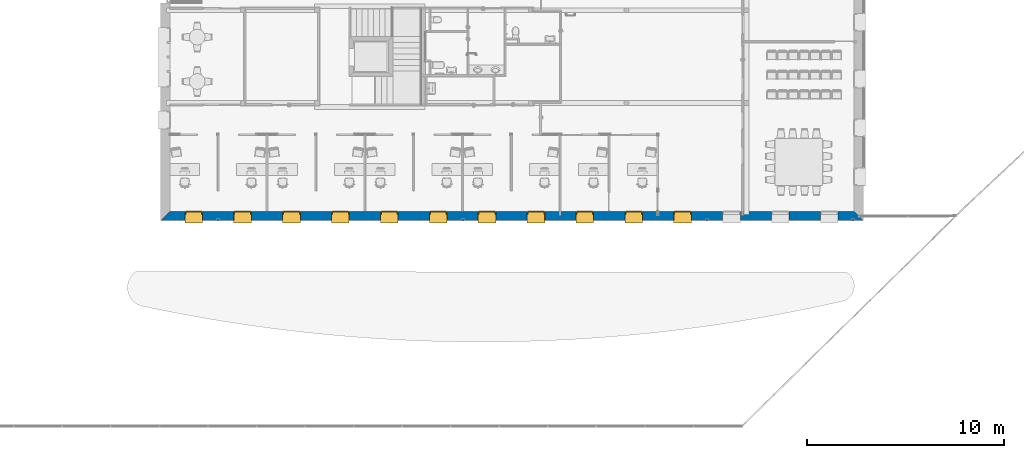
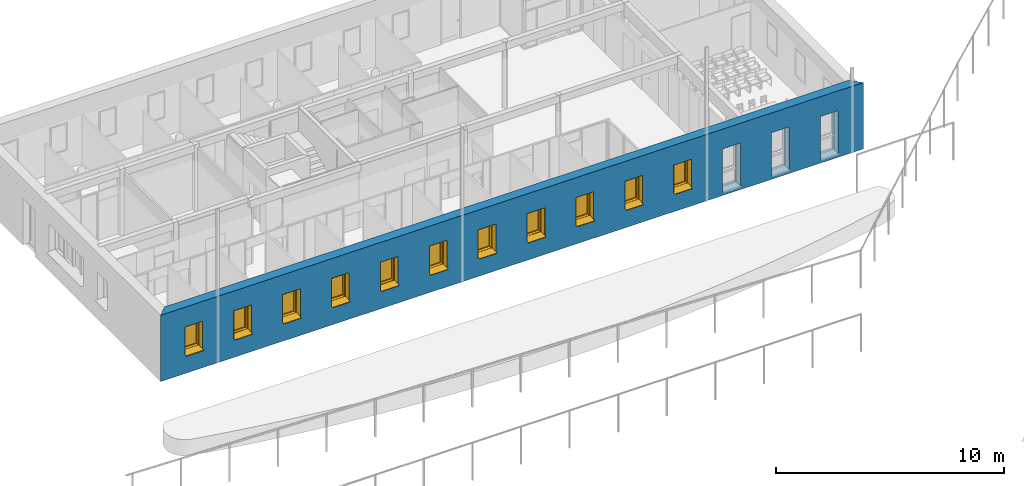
# One storey, part 16 of 91: 11 windows, 1 wall, 14 openings.
"""IFC2X3 building model written with IfcOpenShell, lengths in metres."""

from ifc_helpers import new_model, entity, si_unit, converted_unit, derived_unit, money_unit, direction, frame, origin_with_axes, origin_2d_with_axis, place, context, subcontext, project, spatial, polyline, rectangle, outline, extrude, open_shell, faceted_brep, surface_model, source, transform, mapped, material, layer, layer_set, layer_usage, type_object, element, fill, save


model = new_model("IFC2X3")

# Units and contexts
model_context = context("Model", 3, precision=1e-05, world=origin_with_axes(), true_north=direction((0.0, 1.0)))
body_context = subcontext(model_context, "Body", "Model", "MODEL_VIEW")
ifc_project = project(units=[si_unit("LENGTHUNIT", "METRE"), si_unit("AREAUNIT", "SQUARE_METRE"), si_unit("VOLUMEUNIT", "CUBIC_METRE"), converted_unit("PLANEANGLEUNIT", "DEGREE", entity("IfcPlaneAngleMeasure", 0.0174532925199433), si_unit("PLANEANGLEUNIT", "RADIAN"), dimensions=[0, 0, 0, 0, 0, 0, 0]), money_unit("EUR"), converted_unit("TIMEUNIT", "Year", entity("IfcTimeMeasure", 31557600.0), si_unit("TIMEUNIT", "SECOND"), dimensions=[0, 0, 1, 0, 0, 0, 0]), si_unit("MASSUNIT", "GRAM", prefix="KILO"), si_unit("THERMODYNAMICTEMPERATUREUNIT", "DEGREE_CELSIUS"), si_unit("LUMINOUSINTENSITYUNIT", "LUMEN"), si_unit("ENERGYUNIT", "JOULE", prefix="MEGA"), derived_unit("THERMALCONDUCTANCEUNIT", [(si_unit("POWERUNIT", "WATT"), 1), (si_unit("LENGTHUNIT", "METRE"), -1), (si_unit("THERMODYNAMICTEMPERATUREUNIT", "KELVIN"), -1)]), derived_unit("SPECIFICHEATCAPACITYUNIT", [(si_unit("ENERGYUNIT", "JOULE"), 1), (si_unit("MASSUNIT", "GRAM", prefix="KILO"), -1), (si_unit("THERMODYNAMICTEMPERATUREUNIT", "KELVIN"), -1)]), derived_unit("MASSDENSITYUNIT", [(si_unit("MASSUNIT", "GRAM", prefix="KILO"), 1), (si_unit("VOLUMEUNIT", "CUBIC_METRE"), -1)])], contexts=[model_context])

# Site, building, storey
site_placement = place(None, origin_with_axes())
site = spatial("IfcSite", under=ifc_project, at=site_placement, Name="Site", CompositionType="ELEMENT")
building_placement = place(site_placement, origin_with_axes())
building = spatial("IfcBuilding", under=site, at=building_placement, Name="Bâtiment", CompositionType="ELEMENT")
storey_placement = place(building_placement, origin_with_axes())
storey = spatial("IfcBuildingStorey", under=building, at=storey_placement, Name="RDC", CompositionType="ELEMENT", Elevation=0.0)

# Wall, openings, windows
ifc_material_1 = material(Name="*MÉTAL- BARDAGE")
ifc_layer_1 = layer(ifc_material_1, 0.04, ventilated="UNKNOWN")
ifc_material_2 = material(Name="Divers - Vide faux plafond")
ifc_layer_2 = layer(ifc_material_2, 0.05, ventilated="UNKNOWN")
ifc_material_3 = material(Name="Finition int - Enduit plâtre")
ifc_layer_3 = layer(ifc_material_3, 0.01, ventilated="UNKNOWN")
ifc_material_4 = material(Name="*GENERIQUE - MAÇONNERIE")
ifc_layer_4 = layer(ifc_material_4, 0.2, ventilated="UNKNOWN")
ifc_layer_5 = layer(ifc_material_3, 0.01, ventilated="UNKNOWN")
ifc_material_5 = material(Name="Vide pour liteaux")
ifc_layer_6 = layer(ifc_material_5, 0.01, ventilated="UNKNOWN")
ifc_material_6 = material(Name="*GENERIQUE - ISOLATION PLANCHER")
ifc_layer_7 = layer(ifc_material_6, 0.14, ventilated="UNKNOWN")
ifc_material_7 = material(Name="*PLAQUE DE PLATRE - DOUBLAGE")
ifc_layer_8 = layer(ifc_material_7, 0.018, ventilated="UNKNOWN")
ifc_layer_set = layer_set([ifc_layer_1, ifc_layer_2, ifc_layer_3, ifc_layer_4, ifc_layer_5, ifc_layer_6, ifc_layer_7, ifc_layer_8], Name="*MACONNERIE ITI BARDAGE METAL")
ifc_layer_usage = layer_usage(ifc_layer_set, "AXIS2", "POSITIVE", -0.478)
wall_type = type_object("IfcWallType", Name="*MACONNERIE ITI BARDAGE METAL 478", PredefinedType="NOTDEFINED")
wall_placement = place(storey_placement, frame((25.09999999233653, -26.95756215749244, 0.0), z_axis=(0.0, 0.0, 1.0), x_axis=(1.0, 0.0, 0.0)))
wall = element("IfcWallStandardCase", 1, at=wall_placement, inside=storey, type_object=wall_type, material=ifc_layer_usage, Name="Mur maçonné + ITI + véture métallique", context=body_context, shape_type="SweptSolid", body=[
    extrude(outline(polyline([(-0.4780000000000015, -0.4780000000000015), (35.17800000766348, -0.4780000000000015), (34.70000000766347, 0.0), (0.0, 0.0), (-0.4780000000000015, -0.4780000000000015)])), origin_with_axes(), (0.0, 0.0, 1.0), 3.56),
])
opening_1_placement = place(wall_placement, frame((1.202999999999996, 0.0, 1.0), z_axis=(0.0, 0.0, 1.0), x_axis=(1.0, 0.0, 0.0)))
opening_1 = element("IfcOpeningElement", 2, at=opening_1_placement, cuts=wall, Name="ME.01", context=body_context, shape_type="SweptSolid", body=[
    extrude(rectangle(XDim=0.8999999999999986, YDim=1.5, at=origin_2d_with_axis()), frame((0.0, -0.1580000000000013, 0.75), z_axis=(0.0, -1.0, 0.0), x_axis=(-1.0, 0.0, 0.0)), (0.0, 0.0, 1.0), 0.798),
    extrude(rectangle(XDim=0.8999999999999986, YDim=1.5, at=origin_2d_with_axis()), frame((0.0, -0.1580000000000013, 0.75), z_axis=(0.0, 1.0, 0.0), x_axis=(-1.0, 0.0, 0.0)), (0.0, 0.0, 1.0), 0.6360000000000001),
])
opening_2_placement = place(wall_placement, frame((6.162999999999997, 0.0, 1.0), z_axis=(0.0, 0.0, 1.0), x_axis=(1.0, 0.0, 0.0)))
opening_2 = element("IfcOpeningElement", 3, at=opening_2_placement, cuts=wall, Name="ME.01", context=body_context, shape_type="SweptSolid", body=[
    extrude(rectangle(XDim=0.8999999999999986, YDim=1.5, at=origin_2d_with_axis()), frame((0.0, -0.1580000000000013, 0.75), z_axis=(0.0, -1.0, 0.0), x_axis=(-1.0, 0.0, 0.0)), (0.0, 0.0, 1.0), 0.798),
    extrude(rectangle(XDim=0.8999999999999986, YDim=1.5, at=origin_2d_with_axis()), frame((0.0, -0.1580000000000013, 0.75), z_axis=(0.0, 1.0, 0.0), x_axis=(-1.0, 0.0, 0.0)), (0.0, 0.0, 1.0), 0.6360000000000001),
])
opening_3_placement = place(wall_placement, frame((8.642999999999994, 0.0, 1.0), z_axis=(0.0, 0.0, 1.0), x_axis=(1.0, 0.0, 0.0)))
opening_3 = element("IfcOpeningElement", 4, at=opening_3_placement, cuts=wall, Name="ME.01", context=body_context, shape_type="SweptSolid", body=[
    extrude(rectangle(XDim=0.9000000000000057, YDim=1.5, at=origin_2d_with_axis()), frame((0.0, -0.1580000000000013, 0.75), z_axis=(0.0, -1.0, 0.0), x_axis=(-1.0, 0.0, 0.0)), (0.0, 0.0, 1.0), 0.798),
    extrude(rectangle(XDim=0.9000000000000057, YDim=1.5, at=origin_2d_with_axis()), frame((0.0, -0.1580000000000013, 0.75), z_axis=(0.0, 1.0, 0.0), x_axis=(-1.0, 0.0, 0.0)), (0.0, 0.0, 1.0), 0.6360000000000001),
])
opening_4_placement = place(wall_placement, frame((11.123, 0.0, 1.0), z_axis=(0.0, 0.0, 1.0), x_axis=(1.0, 0.0, 0.0)))
opening_4 = element("IfcOpeningElement", 5, at=opening_4_placement, cuts=wall, Name="ME.01", context=body_context, shape_type="SweptSolid", body=[
    extrude(rectangle(XDim=0.9000000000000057, YDim=1.5, at=origin_2d_with_axis()), frame((0.0, -0.1580000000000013, 0.75), z_axis=(0.0, -1.0, 0.0), x_axis=(-1.0, 0.0, 0.0)), (0.0, 0.0, 1.0), 0.798),
    extrude(rectangle(XDim=0.9000000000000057, YDim=1.5, at=origin_2d_with_axis()), frame((0.0, -0.1580000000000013, 0.75), z_axis=(0.0, 1.0, 0.0), x_axis=(-1.0, 0.0, 0.0)), (0.0, 0.0, 1.0), 0.6360000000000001),
])
opening_5_placement = place(wall_placement, frame((13.60299999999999, 0.0, 1.0), z_axis=(0.0, 0.0, 1.0), x_axis=(1.0, 0.0, 0.0)))
opening_5 = element("IfcOpeningElement", 6, at=opening_5_placement, cuts=wall, Name="ME.01", context=body_context, shape_type="SweptSolid", body=[
    extrude(rectangle(XDim=0.9000000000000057, YDim=1.5, at=origin_2d_with_axis()), frame((0.0, -0.1580000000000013, 0.75), z_axis=(0.0, -1.0, 0.0), x_axis=(-1.0, 0.0, 0.0)), (0.0, 0.0, 1.0), 0.798),
    extrude(rectangle(XDim=0.9000000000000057, YDim=1.5, at=origin_2d_with_axis()), frame((0.0, -0.1580000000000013, 0.75), z_axis=(0.0, 1.0, 0.0), x_axis=(-1.0, 0.0, 0.0)), (0.0, 0.0, 1.0), 0.6360000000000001),
])
opening_6_placement = place(wall_placement, frame((16.08299999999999, 0.0, 1.0), z_axis=(0.0, 0.0, 1.0), x_axis=(1.0, 0.0, 0.0)))
opening_6 = element("IfcOpeningElement", 7, at=opening_6_placement, cuts=wall, Name="ME.01", context=body_context, shape_type="SweptSolid", body=[
    extrude(rectangle(XDim=0.9000000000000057, YDim=1.5, at=origin_2d_with_axis()), frame((0.0, -0.1580000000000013, 0.75), z_axis=(0.0, -1.0, 0.0), x_axis=(-1.0, 0.0, 0.0)), (0.0, 0.0, 1.0), 0.798),
    extrude(rectangle(XDim=0.9000000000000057, YDim=1.5, at=origin_2d_with_axis()), frame((0.0, -0.1580000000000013, 0.75), z_axis=(0.0, 1.0, 0.0), x_axis=(-1.0, 0.0, 0.0)), (0.0, 0.0, 1.0), 0.6360000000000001),
])
opening_7_placement = place(wall_placement, frame((18.563, 0.0, 1.0), z_axis=(0.0, 0.0, 1.0), x_axis=(1.0, 0.0, 0.0)))
opening_7 = element("IfcOpeningElement", 8, at=opening_7_placement, cuts=wall, Name="ME.01", context=body_context, shape_type="SweptSolid", body=[
    extrude(rectangle(XDim=0.9000000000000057, YDim=1.5, at=origin_2d_with_axis()), frame((0.0, -0.1580000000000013, 0.75), z_axis=(0.0, -1.0, 0.0), x_axis=(-1.0, 0.0, 0.0)), (0.0, 0.0, 1.0), 0.798),
    extrude(rectangle(XDim=0.9000000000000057, YDim=1.5, at=origin_2d_with_axis()), frame((0.0, -0.1580000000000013, 0.75), z_axis=(0.0, 1.0, 0.0), x_axis=(-1.0, 0.0, 0.0)), (0.0, 0.0, 1.0), 0.6360000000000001),
])
opening_8_placement = place(wall_placement, frame((21.043, 0.0, 1.0), z_axis=(0.0, 0.0, 1.0), x_axis=(1.0, 0.0, 0.0)))
opening_8 = element("IfcOpeningElement", 9, at=opening_8_placement, cuts=wall, Name="ME.01", context=body_context, shape_type="SweptSolid", body=[
    extrude(rectangle(XDim=0.9000000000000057, YDim=1.5, at=origin_2d_with_axis()), frame((0.0, -0.1580000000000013, 0.75), z_axis=(0.0, -1.0, 0.0), x_axis=(-1.0, 0.0, 0.0)), (0.0, 0.0, 1.0), 0.798),
    extrude(rectangle(XDim=0.9000000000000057, YDim=1.5, at=origin_2d_with_axis()), frame((0.0, -0.1580000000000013, 0.75), z_axis=(0.0, 1.0, 0.0), x_axis=(-1.0, 0.0, 0.0)), (0.0, 0.0, 1.0), 0.6360000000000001),
])
opening_9_placement = place(wall_placement, frame((3.682999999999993, 0.0, 1.0), z_axis=(0.0, 0.0, 1.0), x_axis=(1.0, 0.0, 0.0)))
opening_9 = element("IfcOpeningElement", 10, at=opening_9_placement, cuts=wall, Name="ME.01", context=body_context, shape_type="SweptSolid", body=[
    extrude(rectangle(XDim=0.8999999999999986, YDim=1.5, at=origin_2d_with_axis()), frame((0.0, -0.1580000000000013, 0.75), z_axis=(0.0, -1.0, 0.0), x_axis=(-1.0, 0.0, 0.0)), (0.0, 0.0, 1.0), 0.798),
    extrude(rectangle(XDim=0.8999999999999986, YDim=1.5, at=origin_2d_with_axis()), frame((0.0, -0.1580000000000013, 0.75), z_axis=(0.0, 1.0, 0.0), x_axis=(-1.0, 0.0, 0.0)), (0.0, 0.0, 1.0), 0.6360000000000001),
])
opening_10_placement = place(wall_placement, frame((23.523, 0.0, 1.0), z_axis=(0.0, 0.0, 1.0), x_axis=(1.0, 0.0, 0.0)))
opening_10 = element("IfcOpeningElement", 11, at=opening_10_placement, cuts=wall, Name="ME.01", context=body_context, shape_type="SweptSolid", body=[
    extrude(rectangle(XDim=0.9000000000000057, YDim=1.5, at=origin_2d_with_axis()), frame((0.0, -0.1580000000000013, 0.75), z_axis=(0.0, -1.0, 0.0), x_axis=(-1.0, 0.0, 0.0)), (0.0, 0.0, 1.0), 0.798),
    extrude(rectangle(XDim=0.9000000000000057, YDim=1.5, at=origin_2d_with_axis()), frame((0.0, -0.1580000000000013, 0.75), z_axis=(0.0, 1.0, 0.0), x_axis=(-1.0, 0.0, 0.0)), (0.0, 0.0, 1.0), 0.6360000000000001),
])
opening_11_placement = place(wall_placement, frame((26.00300000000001, 0.0, 1.0), z_axis=(0.0, 0.0, 1.0), x_axis=(1.0, 0.0, 0.0)))
opening_11 = element("IfcOpeningElement", 12, at=opening_11_placement, cuts=wall, Name="ME.01", context=body_context, shape_type="SweptSolid", body=[
    extrude(rectangle(XDim=0.9000000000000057, YDim=1.5, at=origin_2d_with_axis()), frame((0.0, -0.1580000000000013, 0.75), z_axis=(0.0, -1.0, 0.0), x_axis=(-1.0, 0.0, 0.0)), (0.0, 0.0, 1.0), 0.798),
    extrude(rectangle(XDim=0.9000000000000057, YDim=1.5, at=origin_2d_with_axis()), frame((0.0, -0.1580000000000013, 0.75), z_axis=(0.0, 1.0, 0.0), x_axis=(-1.0, 0.0, 0.0)), (0.0, 0.0, 1.0), 0.6360000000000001),
])
opening_12_placement = place(wall_placement, frame((28.48300000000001, 0.0, 0.2), z_axis=(0.0, 0.0, 1.0), x_axis=(1.0, 0.0, 0.0)))
element("IfcOpeningElement", 13, at=opening_12_placement, cuts=wall, Name="ME.02", context=body_context, shape_type="SweptSolid", body=[
    extrude(rectangle(XDim=0.9000000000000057, YDim=2.3, at=origin_2d_with_axis()), frame((0.0, -0.1580000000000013, 1.15), z_axis=(0.0, -1.0, 0.0), x_axis=(-1.0, 0.0, 0.0)), (0.0, 0.0, 1.0), 0.798),
    extrude(rectangle(XDim=0.9000000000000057, YDim=2.3, at=origin_2d_with_axis()), frame((0.0, -0.1580000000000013, 1.15), z_axis=(0.0, 1.0, 0.0), x_axis=(-1.0, 0.0, 0.0)), (0.0, 0.0, 1.0), 0.6360000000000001),
])
opening_13_placement = place(wall_placement, frame((30.96300000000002, 0.0, 0.2), z_axis=(0.0, 0.0, 1.0), x_axis=(1.0, 0.0, 0.0)))
element("IfcOpeningElement", 14, at=opening_13_placement, cuts=wall, Name="ME.02", context=body_context, shape_type="SweptSolid", body=[
    extrude(rectangle(XDim=0.9000000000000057, YDim=2.3, at=origin_2d_with_axis()), frame((0.0, -0.1580000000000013, 1.15), z_axis=(0.0, -1.0, 0.0), x_axis=(-1.0, 0.0, 0.0)), (0.0, 0.0, 1.0), 0.798),
    extrude(rectangle(XDim=0.9000000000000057, YDim=2.3, at=origin_2d_with_axis()), frame((0.0, -0.1580000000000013, 1.15), z_axis=(0.0, 1.0, 0.0), x_axis=(-1.0, 0.0, 0.0)), (0.0, 0.0, 1.0), 0.6360000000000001),
])
opening_14_placement = place(wall_placement, frame((33.44300000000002, 0.0, 0.2), z_axis=(0.0, 0.0, 1.0), x_axis=(1.0, 0.0, 0.0)))
element("IfcOpeningElement", 15, at=opening_14_placement, cuts=wall, Name="ME.02", context=body_context, shape_type="SweptSolid", body=[
    extrude(rectangle(XDim=0.9000000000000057, YDim=2.3, at=origin_2d_with_axis()), frame((0.0, -0.1580000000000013, 1.15), z_axis=(0.0, -1.0, 0.0), x_axis=(-1.0, 0.0, 0.0)), (0.0, 0.0, 1.0), 0.798),
    extrude(rectangle(XDim=0.9000000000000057, YDim=2.3, at=origin_2d_with_axis()), frame((0.0, -0.1580000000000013, 1.15), z_axis=(0.0, 1.0, 0.0), x_axis=(-1.0, 0.0, 0.0)), (0.0, 0.0, 1.0), 0.6360000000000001),
])
window_style = type_object("IfcWindowStyle", Name="Fenêtre 27", ConstructionType="NOTDEFINED", OperationType="SINGLE_PANEL", ParameterTakesPrecedence=False, Sizeable=False)
shared_shape = source(origin_with_axes(), body_context, "Body", "SurfaceModel", [
    surface_model("IfcShellBasedSurfaceModel", [(0.45, -0.161, 0.05), (-0.45, -0.161, 0.05000000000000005), (-0.45, -0.161, 0.04000000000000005), (0.45, -0.161, 0.03999999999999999), (-0.45, -0.5850000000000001, 0.01343749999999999), (0.45, -0.5850000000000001, 0.01343749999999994), (-0.45, -0.5850000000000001, -0.006562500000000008), (0.45, -0.5850000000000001, -0.006562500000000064), (-0.45, -0.5750000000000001, 0.003437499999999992), (0.45, -0.5750000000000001, 0.003437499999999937)], [open_shell([[[0, 1, 2, 3]], [[3, 2, 4, 5]], [[5, 4, 6, 7]], [[7, 6, 8, 9]]])]),
    faceted_brep([(0.447, -0.48, 0.02001547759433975), (0.447, -0.4799999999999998, 1.497), (0.447, -0.1599999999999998, 1.497), (0.447, -0.16, 0.05000000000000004), (0.447, -0.161, 0.05000000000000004), (0.447, -0.161, 0.04000000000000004), (0.45, -0.4799999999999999, 0.02001547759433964), (0.45, -0.4799999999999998, 1.5), (0.45, -0.1599999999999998, 1.5), (0.45, -0.16, 0.05000000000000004), (0.45, -0.161, 0.05000000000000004), (0.45, -0.161, 0.04000000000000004)], [[[0, 1, 2, 3, 4, 5]], [[6, 7, 1, 0]], [[8, 2, 1, 7]], [[3, 2, 8, 9]], [[3, 9, 10, 4]], [[4, 10, 11, 5]], [[5, 11, 6, 0]], [[11, 10, 9, 8, 7, 6]]]),
    faceted_brep([(-0.45, -0.48, 0.02001547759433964), (-0.45, -0.4799999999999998, 1.5), (-0.45, -0.1599999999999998, 1.5), (-0.45, -0.16, 0.05000000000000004), (-0.45, -0.161, 0.05000000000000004), (-0.45, -0.161, 0.04000000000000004), (-0.447, -0.48, 0.02001547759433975), (-0.447, -0.4799999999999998, 1.497), (-0.447, -0.1599999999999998, 1.497), (-0.447, -0.16, 0.05000000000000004), (-0.447, -0.161, 0.05000000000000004), (-0.447, -0.161, 0.04000000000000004)], [[[0, 1, 2, 3, 4, 5]], [[6, 7, 1, 0]], [[8, 2, 1, 7]], [[3, 2, 8, 9]], [[3, 9, 10, 4]], [[4, 10, 11, 5]], [[5, 11, 6, 0]], [[11, 10, 9, 8, 7, 6]]]),
    faceted_brep([(0.45, -0.1599999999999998, 1.5), (0.45, -0.4799999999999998, 1.5), (0.447, -0.4799999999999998, 1.497), (0.447, -0.1599999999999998, 1.497), (-0.45, -0.1599999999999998, 1.5), (-0.45, -0.4799999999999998, 1.5), (-0.447, -0.4799999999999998, 1.497), (-0.447, -0.1599999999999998, 1.497)], [[[0, 1, 2, 3]], [[4, 5, 1, 0]], [[1, 5, 6, 2]], [[3, 2, 6, 7]], [[0, 3, 7, 4]], [[7, 6, 5, 4]]]),
    faceted_brep([(0.425, 0.0, 1.45), (0.425, -0.02500000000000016, 1.45), (0.4, -0.02500000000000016, 1.45), (0.4, -0.1600000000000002, 1.45), (0.45, -0.1600000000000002, 1.45), (0.45, 0.0, 1.45), (0.425, 0.0, 0.05000000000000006), (0.425, -0.02499999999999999, 0.05000000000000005), (0.4, -0.02499999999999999, 0.05000000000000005), (0.4, -0.16, 0.05000000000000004), (0.45, -0.16, 0.05000000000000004), (0.45, 0.0, 0.05000000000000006)], [[[0, 1, 2, 3, 4, 5]], [[1, 0, 6, 7]], [[8, 2, 1, 7]], [[2, 8, 9, 3]], [[4, 3, 9, 10]], [[5, 4, 10, 11]], [[6, 0, 5, 11]], [[7, 6, 11, 10, 9, 8]]]),
    faceted_brep([(-0.4, -0.02500000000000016, 1.45), (-0.425, -0.02500000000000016, 1.45), (-0.425, 0.0, 1.45), (-0.45, 0.0, 1.45), (-0.45, -0.1600000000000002, 1.45), (-0.4, -0.1600000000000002, 1.45), (-0.4, -0.02499999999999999, 0.05000000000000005), (-0.425, -0.02499999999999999, 0.05000000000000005), (-0.425, 0.0, 0.05000000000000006), (-0.45, 0.0, 0.05000000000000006), (-0.45, -0.16, 0.05000000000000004), (-0.4, -0.16, 0.05000000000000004)], [[[0, 1, 2, 3, 4, 5]], [[1, 0, 6, 7]], [[8, 2, 1, 7]], [[2, 8, 9, 3]], [[9, 10, 4, 3]], [[10, 11, 5, 4]], [[6, 0, 5, 11]], [[7, 6, 11, 10, 9, 8]]]),
    faceted_brep([(-0.4, -0.02499999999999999, 0.05000000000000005), (-0.425, -0.02499999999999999, 0.05000000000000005), (-0.425, 0.0, 0.05000000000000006), (-0.45, 0.0, 0.05000000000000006), (-0.45, -0.16, 0.05000000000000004), (-0.4, -0.16, 0.05000000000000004), (0.4, -0.02499999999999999, 0.05000000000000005), (0.425, -0.02499999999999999, 0.05000000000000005), (0.425, -0.02499999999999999, 0.02500000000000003), (-0.425, -0.02499999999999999, 0.02500000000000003), (-0.425, 0.0, 0.02500000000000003), (0.425, 0.0, 0.02500000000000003), (0.425, 0.0, 0.05000000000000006), (0.45, 0.0, 0.05000000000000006), (0.45, 0.0, 0.0), (-0.45, 0.0, 0.0), (-0.45, -0.16, 0.0), (0.45, -0.16, 0.05000000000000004), (0.4, -0.16, 0.05000000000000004), (0.45, -0.16, 0.0)], [[[0, 1, 2, 3, 4, 5]], [[1, 0, 6, 7, 8, 9]], [[10, 2, 1, 9]], [[11, 12, 13, 14, 15, 3, 2, 10]], [[15, 16, 4, 3]], [[17, 18, 5, 4, 16, 19]], [[6, 0, 5, 18]], [[7, 6, 18, 17, 13, 12]], [[7, 12, 11, 8]], [[11, 10, 9, 8]], [[13, 17, 19, 14]], [[14, 19, 16, 15]]]),
    faceted_brep([(0.425, 0.0, 1.45), (0.425, 0.0, 1.475), (-0.425, 0.0, 1.475), (-0.425, 0.0, 1.45), (-0.45, 0.0, 1.45), (-0.45, 0.0, 1.5), (0.45, 0.0, 1.5), (0.45, 0.0, 1.45), (0.425, -0.02500000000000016, 1.45), (0.425, -0.02500000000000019, 1.475), (-0.425, -0.02500000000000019, 1.475), (-0.425, -0.02500000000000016, 1.45), (-0.4, -0.02500000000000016, 1.45), (-0.4, -0.1600000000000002, 1.45), (-0.45, -0.1600000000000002, 1.45), (-0.45, -0.1600000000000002, 1.5), (0.45, -0.1600000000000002, 1.5), (0.45, -0.1600000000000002, 1.45), (0.4, -0.1600000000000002, 1.45), (0.4, -0.02500000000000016, 1.45)], [[[0, 1, 2, 3, 4, 5, 6, 7]], [[1, 0, 8, 9]], [[2, 1, 9, 10]], [[3, 2, 10, 11]], [[11, 12, 13, 14, 4, 3]], [[4, 14, 15, 5]], [[5, 15, 16, 6]], [[6, 16, 17, 7]], [[8, 0, 7, 17, 18, 19]], [[12, 11, 10, 9, 8, 19]], [[12, 19, 18, 13]], [[14, 13, 18, 17, 16, 15]]]),
    faceted_brep([(0.3750000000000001, -0.02500000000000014, 1.425), (0.425, -0.02500000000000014, 1.425), (0.425, 0.02499999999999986, 1.425), (0.3750000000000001, 0.02499999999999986, 1.425), (0.3750000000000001, -0.02499999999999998, 0.07500000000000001), (0.425, -0.02499999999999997, 0.07500000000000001), (0.425, 0.02500000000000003, 0.07500000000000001), (0.3750000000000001, 0.02500000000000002, 0.07500000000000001)], [[[0, 1, 2, 3]], [[0, 4, 5, 1]], [[1, 5, 6, 2]], [[3, 2, 6, 7]], [[4, 0, 3, 7]], [[5, 4, 7, 6]]]),
    faceted_brep([(-0.3750000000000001, -0.02500000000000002, 0.07500000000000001), (-0.425, -0.02500000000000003, 0.07500000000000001), (-0.425, 0.02499999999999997, 0.07500000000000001), (-0.3750000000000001, 0.02499999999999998, 0.07500000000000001), (-0.3750000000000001, -0.02500000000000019, 1.425), (-0.425, -0.02500000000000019, 1.425), (-0.425, 0.02499999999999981, 1.425), (-0.3750000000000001, 0.02499999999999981, 1.425)], [[[0, 1, 2, 3]], [[0, 4, 5, 1]], [[1, 5, 6, 2]], [[3, 2, 6, 7]], [[4, 0, 3, 7]], [[5, 4, 7, 6]]]),
    faceted_brep([(-0.425, -0.02500000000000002, 0.02500000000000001), (-0.425, -0.02500000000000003, 0.07500000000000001), (-0.425, 0.02499999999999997, 0.07500000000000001), (-0.425, 0.02499999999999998, 0.02500000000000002), (0.425, -0.02499999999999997, 0.02500000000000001), (0.425, -0.02499999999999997, 0.07500000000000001), (0.3750000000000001, -0.02499999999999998, 0.07500000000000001), (-0.3750000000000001, -0.02500000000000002, 0.07500000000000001), (-0.3750000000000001, 0.02499999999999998, 0.07500000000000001), (0.3750000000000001, 0.02500000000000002, 0.07500000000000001), (0.425, 0.02500000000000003, 0.07500000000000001), (0.425, 0.02500000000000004, 0.02500000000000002)], [[[0, 1, 2, 3]], [[0, 4, 5, 6, 7, 1]], [[1, 7, 8, 2]], [[3, 2, 8, 9, 10, 11]], [[4, 0, 3, 11]], [[5, 4, 11, 10]], [[6, 5, 10, 9]], [[7, 6, 9, 8]]]),
    faceted_brep([(0.425, -0.02500000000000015, 1.475), (0.425, -0.02500000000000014, 1.425), (0.425, 0.02499999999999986, 1.425), (0.425, 0.02499999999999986, 1.475), (-0.425, -0.0250000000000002, 1.475), (-0.425, -0.02500000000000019, 1.425), (-0.3750000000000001, -0.02500000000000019, 1.425), (0.3750000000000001, -0.02500000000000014, 1.425), (0.3750000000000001, 0.02499999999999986, 1.425), (-0.3750000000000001, 0.02499999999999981, 1.425), (-0.425, 0.02499999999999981, 1.425), (-0.425, 0.0249999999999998, 1.475)], [[[0, 1, 2, 3]], [[0, 4, 5, 6, 7, 1]], [[1, 7, 8, 2]], [[3, 2, 8, 9, 10, 11]], [[4, 0, 3, 11]], [[5, 4, 11, 10]], [[6, 5, 10, 9]], [[7, 6, 9, 8]]]),
    surface_model("IfcShellBasedSurfaceModel", [(0.3750000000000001, -0.01, 0.07500000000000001), (0.3750000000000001, -0.01000000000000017, 1.425), (-0.3750000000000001, -0.01000000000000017, 1.425), (-0.3750000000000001, -0.01, 0.07500000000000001)], [open_shell([[[0, 1, 2, 3]]])]),
    surface_model("IfcShellBasedSurfaceModel", [(0.3750000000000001, 0.01, 0.07500000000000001), (-0.3750000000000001, 0.01, 0.07500000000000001), (-0.3750000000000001, 0.009999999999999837, 1.425), (0.3750000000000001, 0.009999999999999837, 1.425)], [open_shell([[[0, 1, 2, 3]]])]),
])
window_1_placement = place(opening_1_placement, frame((-0.4499999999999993, 0.0, 0.0), z_axis=(0.0, 0.0, 1.0), x_axis=(1.0, 0.0, 0.0)))
window_1 = element("IfcWindow", 16, at=window_1_placement, inside=storey, type_object=window_style, Name="ME.01", OverallHeight=1.5, OverallWidth=0.9, context=body_context, shape_type="MappedRepresentation", body=[
    mapped(shared_shape, transform((0.4499999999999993, 0.001999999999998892, 0.0))),
])
fill(opening_1, window_1)
window_2_placement = place(opening_2_placement, frame((-0.4499999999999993, 0.0, 0.0), z_axis=(0.0, 0.0, 1.0), x_axis=(1.0, 0.0, 0.0)))
window_2 = element("IfcWindow", 17, at=window_2_placement, inside=storey, type_object=window_style, Name="ME.01", OverallHeight=1.5, OverallWidth=0.9, context=body_context, shape_type="MappedRepresentation", body=[
    mapped(shared_shape, transform((0.4499999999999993, 0.001999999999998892, 0.0))),
])
fill(opening_2, window_2)
window_3_placement = place(opening_9_placement, frame((-0.4499999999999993, 0.0, 0.0), z_axis=(0.0, 0.0, 1.0), x_axis=(1.0, 0.0, 0.0)))
window_3 = element("IfcWindow", 18, at=window_3_placement, inside=storey, type_object=window_style, Name="ME.01", OverallHeight=1.5, OverallWidth=0.9, context=body_context, shape_type="MappedRepresentation", body=[
    mapped(shared_shape, transform((0.4499999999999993, 0.001999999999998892, 0.0))),
])
fill(opening_9, window_3)
window_4_placement = place(opening_3_placement, frame((-0.4500000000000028, 0.0, 0.0), z_axis=(0.0, 0.0, 1.0), x_axis=(1.0, 0.0, 0.0)))
window_4 = element("IfcWindow", 19, at=window_4_placement, inside=storey, type_object=window_style, Name="ME.01", OverallHeight=1.5, OverallWidth=0.9, context=body_context, shape_type="MappedRepresentation", body=[
    mapped(shared_shape, transform((0.4500000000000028, 0.001999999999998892, 0.0))),
])
fill(opening_3, window_4)
window_5_placement = place(opening_5_placement, frame((-0.4500000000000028, 0.0, 0.0), z_axis=(0.0, 0.0, 1.0), x_axis=(1.0, 0.0, 0.0)))
window_5 = element("IfcWindow", 20, at=window_5_placement, inside=storey, type_object=window_style, Name="ME.01", OverallHeight=1.5, OverallWidth=0.9, context=body_context, shape_type="MappedRepresentation", body=[
    mapped(shared_shape, transform((0.4500000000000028, 0.001999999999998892, 0.0))),
])
fill(opening_5, window_5)
window_6_placement = place(opening_6_placement, frame((-0.4500000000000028, 0.0, 0.0), z_axis=(0.0, 0.0, 1.0), x_axis=(1.0, 0.0, 0.0)))
window_6 = element("IfcWindow", 21, at=window_6_placement, inside=storey, type_object=window_style, Name="ME.01", OverallHeight=1.5, OverallWidth=0.9, context=body_context, shape_type="MappedRepresentation", body=[
    mapped(shared_shape, transform((0.4500000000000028, 0.001999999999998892, 0.0))),
])
fill(opening_6, window_6)
window_7_placement = place(opening_7_placement, frame((-0.4500000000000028, 0.0, 0.0), z_axis=(0.0, 0.0, 1.0), x_axis=(1.0, 0.0, 0.0)))
window_7 = element("IfcWindow", 22, at=window_7_placement, inside=storey, type_object=window_style, Name="ME.01", OverallHeight=1.5, OverallWidth=0.9, context=body_context, shape_type="MappedRepresentation", body=[
    mapped(shared_shape, transform((0.4500000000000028, 0.001999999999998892, 0.0))),
])
fill(opening_7, window_7)
window_8_placement = place(opening_8_placement, frame((-0.4500000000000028, 0.0, 0.0), z_axis=(0.0, 0.0, 1.0), x_axis=(1.0, 0.0, 0.0)))
window_8 = element("IfcWindow", 23, at=window_8_placement, inside=storey, type_object=window_style, Name="ME.01", OverallHeight=1.5, OverallWidth=0.9, context=body_context, shape_type="MappedRepresentation", body=[
    mapped(shared_shape, transform((0.4500000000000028, 0.001999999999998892, 0.0))),
])
fill(opening_8, window_8)
window_9_placement = place(opening_10_placement, frame((-0.4500000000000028, 0.0, 0.0), z_axis=(0.0, 0.0, 1.0), x_axis=(1.0, 0.0, 0.0)))
window_9 = element("IfcWindow", 24, at=window_9_placement, inside=storey, type_object=window_style, Name="ME.01", OverallHeight=1.5, OverallWidth=0.9, context=body_context, shape_type="MappedRepresentation", body=[
    mapped(shared_shape, transform((0.4500000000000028, 0.001999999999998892, 0.0))),
])
fill(opening_10, window_9)
window_10_placement = place(opening_11_placement, frame((-0.4500000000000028, 0.0, 0.0), z_axis=(0.0, 0.0, 1.0), x_axis=(1.0, 0.0, 0.0)))
window_10 = element("IfcWindow", 25, at=window_10_placement, inside=storey, type_object=window_style, Name="ME.01", OverallHeight=1.5, OverallWidth=0.9, context=body_context, shape_type="MappedRepresentation", body=[
    mapped(shared_shape, transform((0.4500000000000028, 0.001999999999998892, 0.0))),
])
fill(opening_11, window_10)
window_11_placement = place(opening_4_placement, frame((-0.4500000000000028, 0.0, 0.0), z_axis=(0.0, 0.0, 1.0), x_axis=(1.0, 0.0, 0.0)))
window_11 = element("IfcWindow", 26, at=window_11_placement, inside=storey, type_object=window_style, Name="ME.01", OverallHeight=1.5, OverallWidth=0.9, context=body_context, shape_type="MappedRepresentation", body=[
    mapped(shared_shape, transform((0.4500000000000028, 0.001999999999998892, 0.0))),
])
fill(opening_4, window_11)

save(model, "model.ifc")
